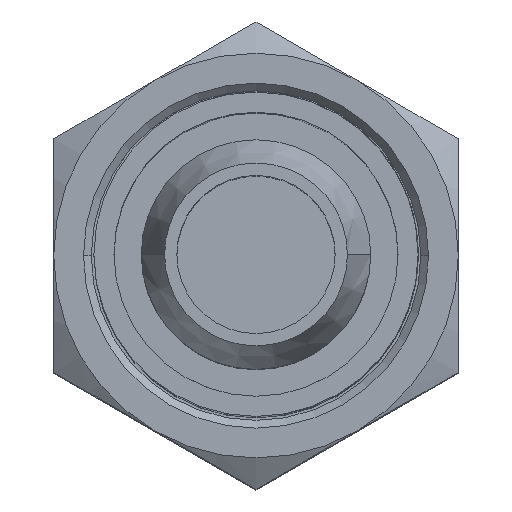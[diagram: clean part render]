
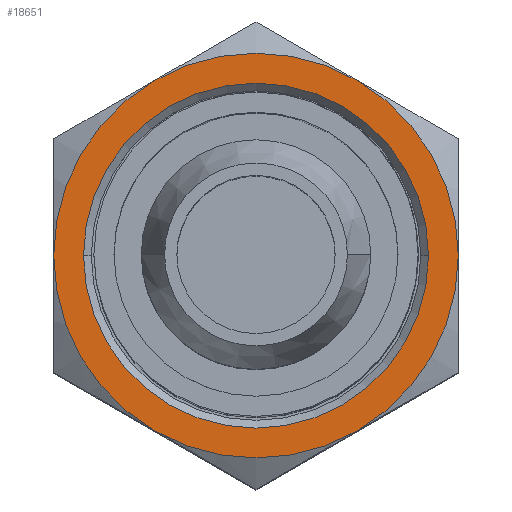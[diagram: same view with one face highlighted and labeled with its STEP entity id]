
A CAD part, top view. The second image highlights one B-rep face of the part: STEP entity #18651.
In plain terms, the highlighted planar face has unit normal (0, 0, 1).
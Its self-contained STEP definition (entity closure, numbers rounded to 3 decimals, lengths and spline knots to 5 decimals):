
#599 = DIRECTION ( 'NONE',  ( 0., 0., -1. ) ) ;
#1149 = ORIENTED_EDGE ( 'NONE', *, *, #9164, .F. ) ;
#1312 = DIRECTION ( 'NONE',  ( -1., 0., 0. ) ) ;
#1700 = CIRCLE ( 'NONE', #5227, 0.156 ) ;
#1964 = DIRECTION ( 'NONE',  ( -1., 0., 0. ) ) ;
#1965 = DIRECTION ( 'NONE',  ( 0., 0., -1. ) ) ;
#2141 = CARTESIAN_POINT ( 'NONE',  ( 0., 0., -0.498 ) ) ;
#2781 = DIRECTION ( 'NONE',  ( -1., 0., 0. ) ) ;
#3042 = VERTEX_POINT ( 'NONE', #14771 ) ;
#3361 = CARTESIAN_POINT ( 'NONE',  ( 0., 0., -0.498 ) ) ;
#3371 = CIRCLE ( 'NONE', #25023, 0.156 ) ;
#3820 = EDGE_CURVE ( 'NONE', #27128, #20046, #36316, .T. ) ;
#3969 = FACE_BOUND ( 'NONE', #22779, .T. ) ;
#4301 = CIRCLE ( 'NONE', #32416, 0.133 ) ;
#4721 = DIRECTION ( 'NONE',  ( -1., 0., 0. ) ) ;
#4773 = AXIS2_PLACEMENT_3D ( 'NONE', #5894, #14332, #2781 ) ;
#5227 = AXIS2_PLACEMENT_3D ( 'NONE', #12685, #14897, #12331 ) ;
#5894 = CARTESIAN_POINT ( 'NONE',  ( 0., 0., -0.498 ) ) ;
#6365 = DIRECTION ( 'NONE',  ( 0., 0., -1. ) ) ;
#7443 = ORIENTED_EDGE ( 'NONE', *, *, #28046, .F. ) ;
#7472 = ORIENTED_EDGE ( 'NONE', *, *, #15747, .F. ) ;
#7614 = AXIS2_PLACEMENT_3D ( 'NONE', #2141, #15902, #1964 ) ;
#8905 = VERTEX_POINT ( 'NONE', #9329 ) ;
#9088 = ORIENTED_EDGE ( 'NONE', *, *, #31973, .F. ) ;
#9164 = EDGE_CURVE ( 'NONE', #3042, #11058, #22090, .T. ) ;
#9329 = CARTESIAN_POINT ( 'NONE',  ( 0.078, -0.1351, -0.498 ) ) ;
#9384 = VERTEX_POINT ( 'NONE', #31389 ) ;
#10659 = EDGE_CURVE ( 'NONE', #20046, #27128, #4301, .T. ) ;
#10928 = CARTESIAN_POINT ( 'NONE',  ( -0.133, 0., -0.498 ) ) ;
#10984 = CIRCLE ( 'NONE', #25047, 0.156 ) ;
#11058 = VERTEX_POINT ( 'NONE', #24497 ) ;
#11648 = CARTESIAN_POINT ( 'NONE',  ( 0., 0., -0.498 ) ) ;
#12050 = CARTESIAN_POINT ( 'NONE',  ( 0., 0.141, -0.498 ) ) ;
#12331 = DIRECTION ( 'NONE',  ( -1., 0., 0. ) ) ;
#12685 = CARTESIAN_POINT ( 'NONE',  ( 0., 0., -0.498 ) ) ;
#12925 = CARTESIAN_POINT ( 'NONE',  ( 0.156, 0., -0.498 ) ) ;
#14069 = AXIS2_PLACEMENT_3D ( 'NONE', #12050, #6365, #32213 ) ;
#14159 = CARTESIAN_POINT ( 'NONE',  ( 0., 0., -0.498 ) ) ;
#14332 = DIRECTION ( 'NONE',  ( 0., 0., -1. ) ) ;
#14771 = CARTESIAN_POINT ( 'NONE',  ( -0.078, 0.1351, -0.498 ) ) ;
#14897 = DIRECTION ( 'NONE',  ( 0., 0., -1. ) ) ;
#15100 = DIRECTION ( 'NONE',  ( -1., 0., 0. ) ) ;
#15306 = EDGE_LOOP ( 'NONE', ( #7443, #15439, #7472, #16096, #9088, #1149 ) ) ;
#15439 = ORIENTED_EDGE ( 'NONE', *, *, #29870, .F. ) ;
#15747 = EDGE_CURVE ( 'NONE', #8905, #9384, #31124, .T. ) ;
#15902 = DIRECTION ( 'NONE',  ( 0., 0., -1. ) ) ;
#16096 = ORIENTED_EDGE ( 'NONE', *, *, #18010, .F. ) ;
#17245 = CARTESIAN_POINT ( 'NONE',  ( -0.156, 0., -0.498 ) ) ;
#17495 = VERTEX_POINT ( 'NONE', #17245 ) ;
#18010 = EDGE_CURVE ( 'NONE', #32813, #8905, #24023, .T. ) ;
#18651 = ADVANCED_FACE ( 'NONE', ( #3969, #26349 ), #31498, .F. ) ;
#19831 = ORIENTED_EDGE ( 'NONE', *, *, #10659, .T. ) ;
#20046 = VERTEX_POINT ( 'NONE', #10928 ) ;
#20220 = DIRECTION ( 'NONE',  ( -1., 0., 0. ) ) ;
#20625 = DIRECTION ( 'NONE',  ( 0., 0., -1. ) ) ;
#22090 = CIRCLE ( 'NONE', #23255, 0.156 ) ;
#22697 = CARTESIAN_POINT ( 'NONE',  ( 0., 0., -0.498 ) ) ;
#22779 = EDGE_LOOP ( 'NONE', ( #25323, #19831 ) ) ;
#23255 = AXIS2_PLACEMENT_3D ( 'NONE', #22697, #33868, #25612 ) ;
#23461 = AXIS2_PLACEMENT_3D ( 'NONE', #11648, #20625, #15100 ) ;
#23759 = CARTESIAN_POINT ( 'NONE',  ( 0.133, 0., -0.498 ) ) ;
#24023 = CIRCLE ( 'NONE', #23461, 0.156 ) ;
#24497 = CARTESIAN_POINT ( 'NONE',  ( 0.078, 0.1351, -0.498 ) ) ;
#25023 = AXIS2_PLACEMENT_3D ( 'NONE', #3361, #599, #1312 ) ;
#25047 = AXIS2_PLACEMENT_3D ( 'NONE', #26914, #1965, #4721 ) ;
#25323 = ORIENTED_EDGE ( 'NONE', *, *, #3820, .T. ) ;
#25612 = DIRECTION ( 'NONE',  ( -1., 0., 0. ) ) ;
#26349 = FACE_OUTER_BOUND ( 'NONE', #15306, .T. ) ;
#26914 = CARTESIAN_POINT ( 'NONE',  ( 0., 0., -0.498 ) ) ;
#27128 = VERTEX_POINT ( 'NONE', #23759 ) ;
#28046 = EDGE_CURVE ( 'NONE', #17495, #3042, #3371, .T. ) ;
#29870 = EDGE_CURVE ( 'NONE', #9384, #17495, #10984, .T. ) ;
#31124 = CIRCLE ( 'NONE', #4773, 0.156 ) ;
#31389 = CARTESIAN_POINT ( 'NONE',  ( -0.078, -0.1351, -0.498 ) ) ;
#31498 = PLANE ( 'NONE',  #14069 ) ;
#31973 = EDGE_CURVE ( 'NONE', #11058, #32813, #1700, .T. ) ;
#32213 = DIRECTION ( 'NONE',  ( -1., 0., 0. ) ) ;
#32416 = AXIS2_PLACEMENT_3D ( 'NONE', #14159, #33978, #20220 ) ;
#32813 = VERTEX_POINT ( 'NONE', #12925 ) ;
#33868 = DIRECTION ( 'NONE',  ( 0., 0., -1. ) ) ;
#33978 = DIRECTION ( 'NONE',  ( 0., 0., -1. ) ) ;
#36316 = CIRCLE ( 'NONE', #7614, 0.133 ) ;
